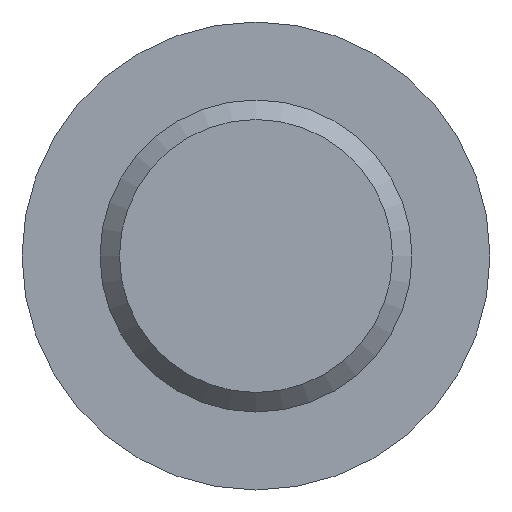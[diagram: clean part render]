
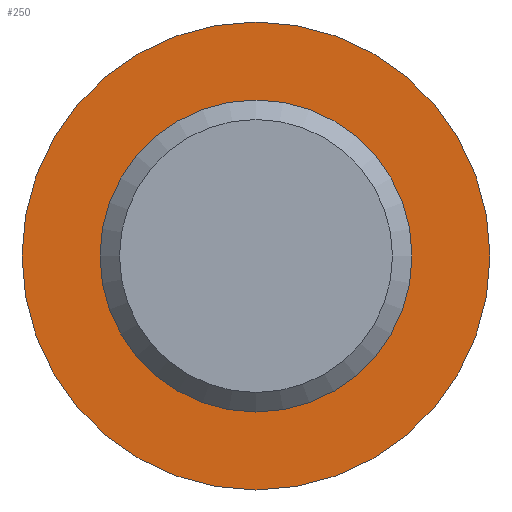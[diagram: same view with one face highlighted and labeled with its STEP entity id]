
A CAD part, front view. The second image highlights one B-rep face of the part: STEP entity #250.
In plain terms, the highlighted planar face has unit normal (0, -1, 0).
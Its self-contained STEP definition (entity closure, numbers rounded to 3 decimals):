
#17=FACE_BOUND('',#61,.T.);
#30=PLANE('',#303);
#43=FACE_OUTER_BOUND('',#60,.T.);
#60=EDGE_LOOP('',(#214,#215));
#61=EDGE_LOOP('',(#216,#217));
#100=CIRCLE('',#301,4.);
#101=CIRCLE('',#302,4.);
#102=CIRCLE('',#304,6.);
#103=CIRCLE('',#305,6.);
#126=VERTEX_POINT('',#456);
#127=VERTEX_POINT('',#457);
#128=VERTEX_POINT('',#462);
#129=VERTEX_POINT('',#463);
#157=EDGE_CURVE('',#126,#127,#100,.T.);
#158=EDGE_CURVE('',#127,#126,#101,.T.);
#160=EDGE_CURVE('',#128,#129,#102,.T.);
#161=EDGE_CURVE('',#129,#128,#103,.T.);
#214=ORIENTED_EDGE('',*,*,#160,.F.);
#215=ORIENTED_EDGE('',*,*,#161,.F.);
#216=ORIENTED_EDGE('',*,*,#157,.T.);
#217=ORIENTED_EDGE('',*,*,#158,.T.);
#250=ADVANCED_FACE('',(#43,#17),#30,.T.);
#301=AXIS2_PLACEMENT_3D('',#458,#375,#376);
#302=AXIS2_PLACEMENT_3D('',#459,#377,#378);
#303=AXIS2_PLACEMENT_3D('',#461,#380,#381);
#304=AXIS2_PLACEMENT_3D('',#464,#382,#383);
#305=AXIS2_PLACEMENT_3D('',#465,#384,#385);
#375=DIRECTION('center_axis',(0.,1.,0.));
#376=DIRECTION('ref_axis',(1.,0.,0.));
#377=DIRECTION('center_axis',(0.,1.,0.));
#378=DIRECTION('ref_axis',(1.,0.,0.));
#380=DIRECTION('center_axis',(0.,-1.,0.));
#381=DIRECTION('ref_axis',(0.,0.,-1.));
#382=DIRECTION('center_axis',(0.,1.,0.));
#383=DIRECTION('ref_axis',(1.,0.,0.));
#384=DIRECTION('center_axis',(0.,1.,0.));
#385=DIRECTION('ref_axis',(1.,0.,0.));
#456=CARTESIAN_POINT('',(0.,-190.,4.));
#457=CARTESIAN_POINT('',(0.,-190.,-4.));
#458=CARTESIAN_POINT('Origin',(0.,-190.,0.));
#459=CARTESIAN_POINT('Origin',(0.,-190.,0.));
#461=CARTESIAN_POINT('Origin',(0.,-190.,6.));
#462=CARTESIAN_POINT('',(0.,-190.,6.));
#463=CARTESIAN_POINT('',(0.,-190.,-6.));
#464=CARTESIAN_POINT('Origin',(0.,-190.,0.));
#465=CARTESIAN_POINT('Origin',(0.,-190.,0.));
